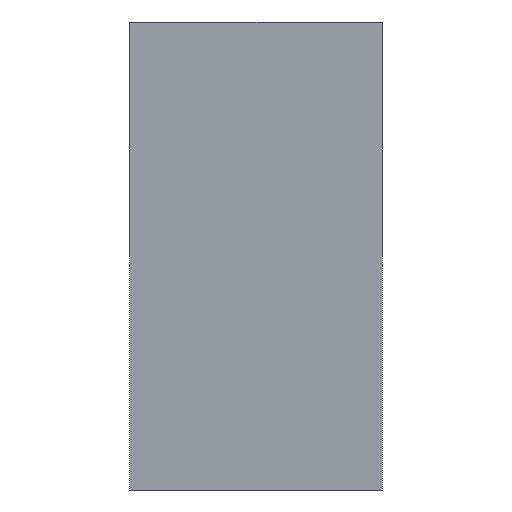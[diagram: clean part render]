
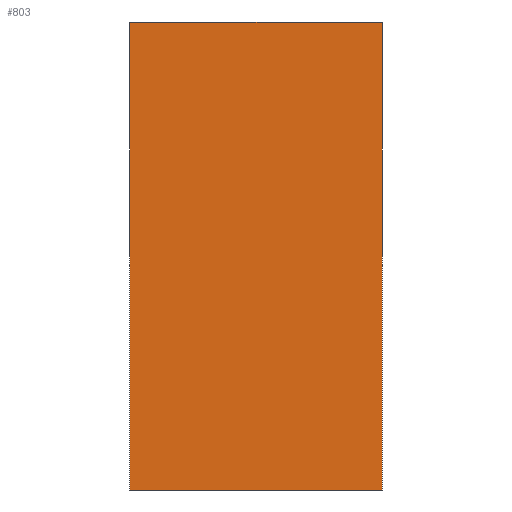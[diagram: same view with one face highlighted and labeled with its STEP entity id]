
A CAD part, left-side view. The second image highlights one B-rep face of the part: STEP entity #803.
In plain terms, the highlighted planar face has unit normal (-1, 0, 0).
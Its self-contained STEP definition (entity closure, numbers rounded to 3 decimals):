
#124 = FACE_OUTER_BOUND ( 'NONE', #765, .T. ) ;
#125 = PLANE ( 'NONE',  #126 ) ;
#126 = AXIS2_PLACEMENT_3D ( 'NONE', #127, #128, #129 ) ;
#127 = CARTESIAN_POINT ( 'NONE',  ( -75.3, 0., 50. ) ) ;
#128 = DIRECTION ( 'NONE',  ( 1., 0., 0. ) ) ;
#129 = DIRECTION ( 'NONE',  ( 0., 0., -1. ) ) ;
#651 = VERTEX_POINT ( 'NONE', #2792 ) ;
#667 = EDGE_CURVE ( 'NONE', #1205, #651, #2903, .T. ) ;
#693 = ORIENTED_EDGE ( 'NONE', *, *, #667, .T. ) ;
#765 = EDGE_LOOP ( 'NONE', ( #693, #3487, #3401, #3344 ) ) ;
#803 = ADVANCED_FACE ( 'NONE', ( #124 ), #125, .F. ) ;
#1051 = VERTEX_POINT ( 'NONE', #1901 ) ;
#1082 = EDGE_CURVE ( 'NONE', #1051, #1205, #1981, .T. ) ;
#1205 = VERTEX_POINT ( 'NONE', #2458 ) ;
#1624 = LINE ( 'NONE', #1625, #1626 ) ;
#1625 = CARTESIAN_POINT ( 'NONE',  ( -75.3, 0., 50. ) ) ;
#1626 = VECTOR ( 'NONE', #1627, 1000. ) ;
#1627 = DIRECTION ( 'NONE',  ( 0., -1., 0. ) ) ;
#1901 = CARTESIAN_POINT ( 'NONE',  ( -75.3, 27., 50. ) ) ;
#1981 = LINE ( 'NONE', #1982, #1983 ) ;
#1982 = CARTESIAN_POINT ( 'NONE',  ( -75.3, 27., 50. ) ) ;
#1983 = VECTOR ( 'NONE', #1984, 1000. ) ;
#1984 = DIRECTION ( 'NONE',  ( 0., 0., -1. ) ) ;
#2186 = CARTESIAN_POINT ( 'NONE',  ( -75.3, 0., 50. ) ) ;
#2279 = LINE ( 'NONE', #2280, #2281 ) ;
#2280 = CARTESIAN_POINT ( 'NONE',  ( -75.3, 0., 50. ) ) ;
#2281 = VECTOR ( 'NONE', #2282, 1000. ) ;
#2282 = DIRECTION ( 'NONE',  ( 0., 0., -1. ) ) ;
#2458 = CARTESIAN_POINT ( 'NONE',  ( -75.3, 27., 0. ) ) ;
#2792 = CARTESIAN_POINT ( 'NONE',  ( -75.3, 0., 0. ) ) ;
#2903 = LINE ( 'NONE', #2904, #2905 ) ;
#2904 = CARTESIAN_POINT ( 'NONE',  ( -75.3, 0., 0. ) ) ;
#2905 = VECTOR ( 'NONE', #2906, 1000. ) ;
#2906 = DIRECTION ( 'NONE',  ( 0., -1., 0. ) ) ;
#3344 = ORIENTED_EDGE ( 'NONE', *, *, #1082, .T. ) ;
#3377 = EDGE_CURVE ( 'NONE', #1051, #3450, #1624, .T. ) ;
#3401 = ORIENTED_EDGE ( 'NONE', *, *, #3377, .F. ) ;
#3450 = VERTEX_POINT ( 'NONE', #2186 ) ;
#3463 = EDGE_CURVE ( 'NONE', #3450, #651, #2279, .T. ) ;
#3487 = ORIENTED_EDGE ( 'NONE', *, *, #3463, .F. ) ;
